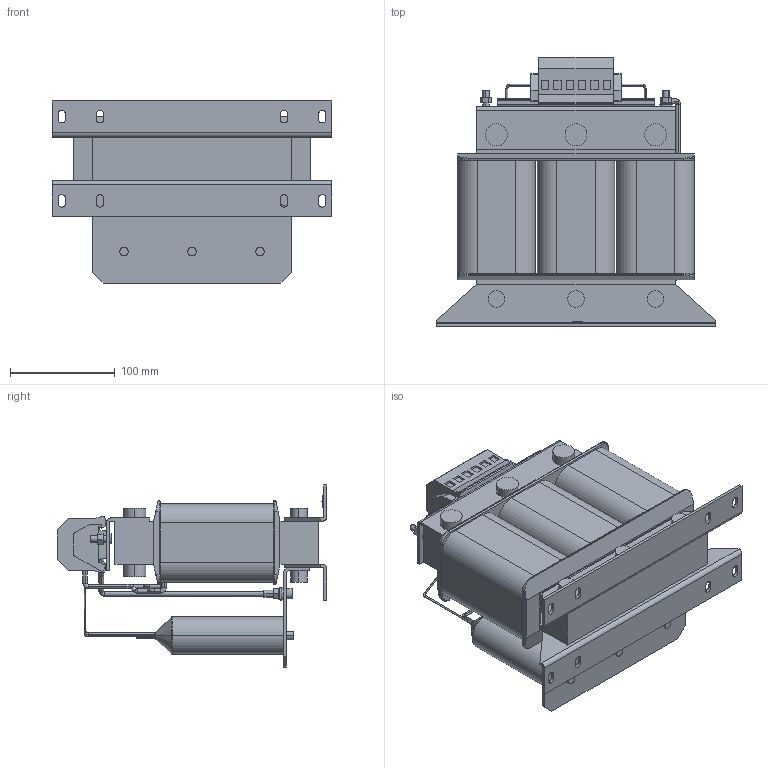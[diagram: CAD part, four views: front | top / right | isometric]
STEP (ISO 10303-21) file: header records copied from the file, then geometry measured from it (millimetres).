
FILE_DESCRIPTION (( 'STEP AP214' ), '1' );
FILE_NAME ('00Z1GX4-0016.STEP', '2022-11-16T10:03:51', ( '' ), ( '' ), 'SwSTEP 2.0', 'SolidWorks 2022', '' );
FILE_SCHEMA (( 'AUTOMOTIVE_DESIGN' ));
Length unit declared in the file: centimetre
Products named in the file (1): 00Z1GX4-0016
Bounding box: 267 x 257.4 x 173.9 mm (x, y, z)
Volume: 3285826.3 mm3; surface area: 360149.6 mm2
Topology: 1 solids, 2 shells, 727 faces, 1903 edges, 1224 vertices
Faces by surface type: plane 307, cylinder 279, torus 108, bspline 27, cone 6
Entity records: 24516 total; most frequent: CARTESIAN_POINT 5942, DIRECTION 3938, ORIENTED_EDGE 3806, EDGE_CURVE 1903, AXIS2_PLACEMENT_3D 1493, VERTEX_POINT 1224, LINE 952, VECTOR 952
